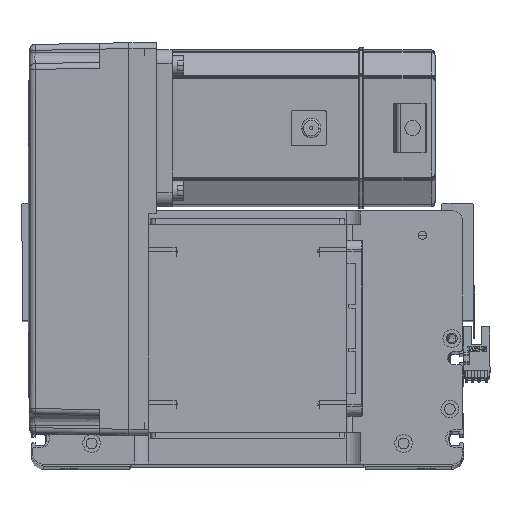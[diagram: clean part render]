
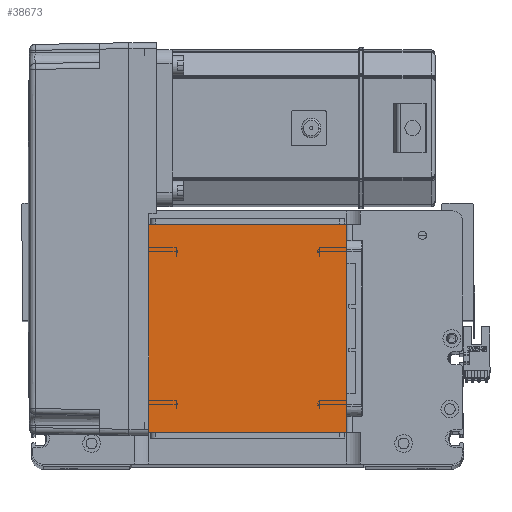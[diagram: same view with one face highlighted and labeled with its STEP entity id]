
A CAD part, top view. The second image highlights one B-rep face of the part: STEP entity #38673.
In plain terms, the highlighted planar face has unit normal (0, 0, 1).
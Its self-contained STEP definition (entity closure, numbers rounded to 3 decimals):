
#2104 = DIRECTION ( 'NONE',  ( 1., 0., 0. ) ) ;
#2467 = PLANE ( 'NONE',  #38617 ) ;
#4198 = EDGE_CURVE ( 'NONE', #10774, #12469, #12890, .T. ) ;
#5534 = CARTESIAN_POINT ( 'NONE',  ( 50.5, 16., 115. ) ) ;
#8054 = DIRECTION ( 'NONE',  ( 1., 0., 0. ) ) ;
#10774 = VERTEX_POINT ( 'NONE', #17440 ) ;
#11202 = EDGE_CURVE ( 'NONE', #16443, #10774, #43741, .T. ) ;
#11710 = CARTESIAN_POINT ( 'NONE',  ( -50.5, 16., 115. ) ) ;
#12469 = VERTEX_POINT ( 'NONE', #34056 ) ;
#12890 = LINE ( 'NONE', #17311, #43331 ) ;
#14014 = ORIENTED_EDGE ( 'NONE', *, *, #49912, .T. ) ;
#16222 = ORIENTED_EDGE ( 'NONE', *, *, #20942, .T. ) ;
#16380 = VECTOR ( 'NONE', #19593, 1000. ) ;
#16443 = VERTEX_POINT ( 'NONE', #5534 ) ;
#17311 = CARTESIAN_POINT ( 'NONE',  ( -50.5, 122., 115. ) ) ;
#17440 = CARTESIAN_POINT ( 'NONE',  ( 50.5, 122., 115. ) ) ;
#19499 = ORIENTED_EDGE ( 'NONE', *, *, #11202, .T. ) ;
#19593 = DIRECTION ( 'NONE',  ( 0., -1., 0. ) ) ;
#20811 = VERTEX_POINT ( 'NONE', #11710 ) ;
#20942 = EDGE_CURVE ( 'NONE', #20811, #16443, #25187, .T. ) ;
#22611 = VECTOR ( 'NONE', #25518, 1000. ) ;
#25187 = LINE ( 'NONE', #48140, #30207 ) ;
#25518 = DIRECTION ( 'NONE',  ( 0., 1., 0. ) ) ;
#27276 = CARTESIAN_POINT ( 'NONE',  ( -50.5, 122., 115. ) ) ;
#28213 = LINE ( 'NONE', #27276, #16380 ) ;
#30207 = VECTOR ( 'NONE', #8054, 1000. ) ;
#30312 = DIRECTION ( 'NONE',  ( 0., 0., 1. ) ) ;
#30644 = CARTESIAN_POINT ( 'NONE',  ( 0., 0., 115. ) ) ;
#33612 = DIRECTION ( 'NONE',  ( -1., 0., 0. ) ) ;
#34056 = CARTESIAN_POINT ( 'NONE',  ( -50.5, 122., 115. ) ) ;
#36849 = CARTESIAN_POINT ( 'NONE',  ( 50.5, 122., 115. ) ) ;
#37802 = ORIENTED_EDGE ( 'NONE', *, *, #4198, .T. ) ;
#38617 = AXIS2_PLACEMENT_3D ( 'NONE', #30644, #30312, #2104 ) ;
#38673 = ADVANCED_FACE ( 'NONE', ( #40226 ), #2467, .T. ) ;
#40226 = FACE_OUTER_BOUND ( 'NONE', #44015, .T. ) ;
#43331 = VECTOR ( 'NONE', #33612, 1000. ) ;
#43741 = LINE ( 'NONE', #36849, #22611 ) ;
#44015 = EDGE_LOOP ( 'NONE', ( #14014, #16222, #19499, #37802 ) ) ;
#48140 = CARTESIAN_POINT ( 'NONE',  ( -50.5, 16., 115. ) ) ;
#49912 = EDGE_CURVE ( 'NONE', #12469, #20811, #28213, .T. ) ;
